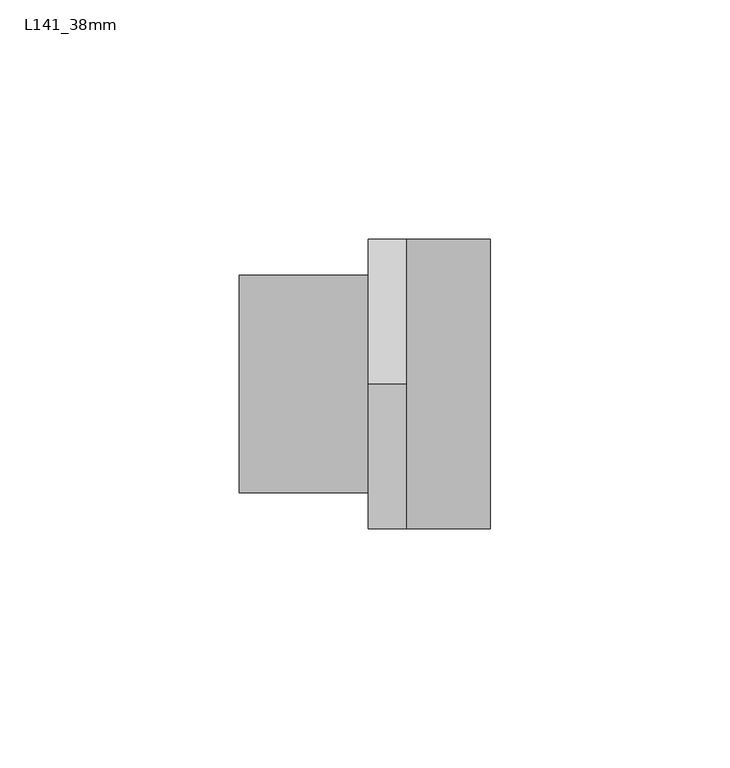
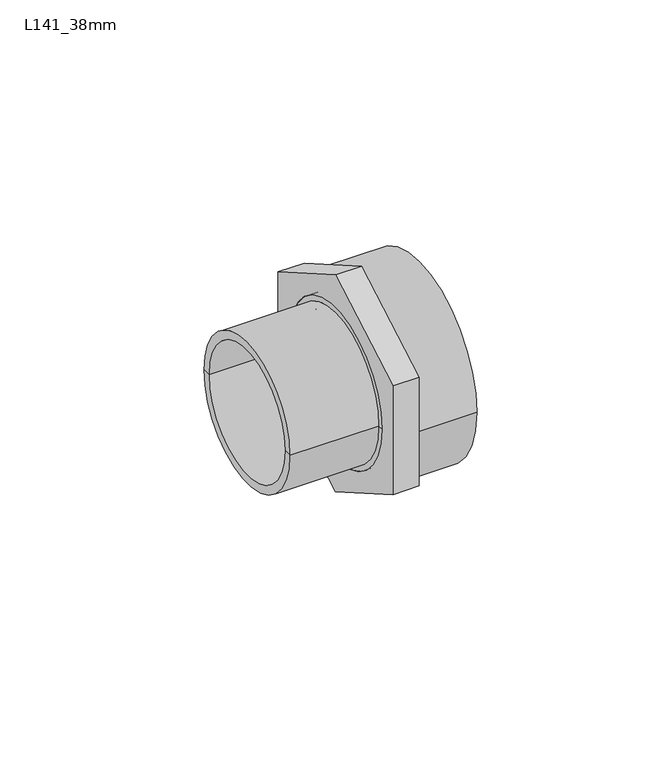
"""IFC4 building model written with IfcOpenShell, lengths in millimetres: pipe fitting geometry, Durapipe_PipeFitting_VulcatheneEnfusion_MItoPipeCoupler_L14 : L141_38mm."""

from ifc_helpers import new_model, si_unit, point, frame, origin, origin_2d, place, context, project, spatial, polyline, circle_curve, trimmed, segment, composite_curve, outline, extrude, source, transform, mapped, element, save
from ifc_brep_helpers import plane_surface, cylinder_surface, revolved_surface, advanced_brep


def l141_38mm_0ffd552d(model_context):
    return source(origin(), model_context, "Body", "SolidModel", [
        extrude(outline(polyline([(-30.2, -17.4342863), (-30.2, 17.4656631), (0.0, 34.8736649), (30.2, 17.4656631), (30.2, -17.4342863), (0.0, -34.8422881), (-30.2, -17.4342863)]), holes=[composite_curve([segment(trimmed(circle_curve(origin_2d(), 24.3), [point((-24.3, 0.0))], [point((24.3, 0.0))], True, "CARTESIAN"), True, "CONTINUOUS"), segment(trimmed(circle_curve(origin_2d(), 24.3), [point((24.3, 0.0))], [point((-24.3, 0.0))], True, "CARTESIAN"), True, "CONTINUOUS")], self_intersect=False)]), frame((0.7, 0.0, 0.0), z_axis=(1.0, 0.0, 0.0), x_axis=(0.0, 1.0, 0.0)), (0.0, 0.0, 1.0), 7.9375),
        advanced_brep(
        [(-26.2, -22.7, 0.0), (-26.2, 22.7, 0.0), (0.7, 22.7, 0.0), (0.7, -22.7, 0.0), (-26.2, -20.1, 0.0), (-26.2, 20.1, 0.0), (1.5, -20.1, 0.0), (1.5, 20.1, 0.0), (0.7, 24.3, 0.0), (0.7, -24.3, 0.0), (1.5, -24.3, 0.0), (1.5, 24.3, 0.0)],
        [
            (0, 1, circle_curve(frame((-26.2, 0.0, 0.0), z_axis=(1.0, 0.0, 0.0), x_axis=(0.0, 1.0, 0.0)), 22.7)),
            (1, 2),
            (2, 3, circle_curve(frame((0.7, 0.0, 0.0), z_axis=(-1.0, 0.0, 0.0), x_axis=(0.0, 1.0, 0.0)), 22.7)),
            (3, 0),
            (1, 0, circle_curve(frame((-26.2, 0.0, 0.0), z_axis=(1.0, 0.0, 0.0), x_axis=(0.0, 1.0, 0.0)), 22.7)),
            (3, 2, circle_curve(frame((0.7, 0.0, 0.0), z_axis=(-1.0, 0.0, 0.0), x_axis=(0.0, 1.0, 0.0)), 22.7)),
            (4, 5, circle_curve(frame((-26.2, 0.0, 0.0), z_axis=(1.0, 0.0, 0.0), x_axis=(0.0, 1.0, 0.0)), 20.1)),
            (5, 1),
            (0, 4),
            (5, 4, circle_curve(frame((-26.2, 0.0, 0.0), z_axis=(1.0, 0.0, 0.0), x_axis=(0.0, 1.0, 0.0)), 20.1)),
            (6, 7, circle_curve(frame((1.5, 0.0, 0.0), z_axis=(1.0, 0.0, 0.0), x_axis=(0.0, 1.0, 0.0)), 20.1)),
            (7, 5),
            (4, 6),
            (7, 6, circle_curve(frame((1.5, 0.0, 0.0), z_axis=(1.0, 0.0, 0.0), x_axis=(0.0, 1.0, 0.0)), 20.1)),
            (2, 8),
            (8, 9, circle_curve(frame((0.7, 0.0, 0.0), z_axis=(-1.0, 0.0, 0.0), x_axis=(0.0, 1.0, 0.0)), 24.3)),
            (9, 3),
            (9, 8, circle_curve(frame((0.7, 0.0, 0.0), z_axis=(-1.0, 0.0, 0.0), x_axis=(0.0, 1.0, 0.0)), 24.3)),
            (10, 11, circle_curve(frame((1.5, 0.0, 0.0), z_axis=(1.0, 0.0, 0.0), x_axis=(0.0, 1.0, 0.0)), 24.3)),
            (11, 7),
            (6, 10),
            (11, 10, circle_curve(frame((1.5, 0.0, 0.0), z_axis=(1.0, 0.0, 0.0), x_axis=(0.0, 1.0, 0.0)), 24.3)),
            (8, 11),
            (10, 9),
        ],
        [
            cylinder_surface(frame((1571.2518184, 0.0, 0.0), z_axis=(-1.0, 0.0, 0.0), x_axis=(0.0, 1.0, 0.0)), 22.7),
            plane_surface(frame((-26.2, 0.0, 0.0), z_axis=(-1.0, 0.0, 0.0), x_axis=(0.0, 1.0, 0.0))),
            revolved_surface(polyline([(-26.200000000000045, 20.1, 0.0), (1.5, 20.1, 0.0)]), (1571.2518184, 0.0, 0.0), (-1.0, 0.0, 0.0)),
            plane_surface(frame((0.7, 0.0, 0.0), z_axis=(-1.0, 0.0, 0.0), x_axis=(0.0, 1.0, 0.0))),
            plane_surface(frame((1.5, 0.0, 0.0), z_axis=(1.0, 0.0, 0.0), x_axis=(0.0, 1.0, 0.0))),
            cylinder_surface(frame((1571.2518184, 0.0, 0.0), z_axis=(-1.0, 0.0, 0.0), x_axis=(0.0, 1.0, 0.0)), 24.3),
        ],
        [
            (0, [[1, 2, 3, 4]]),
            (0, [[5, -4, 6, -2]]),
            (1, [[7, 8, -1, 9]]),
            (1, [[10, -9, -5, -8]]),
            (2, [[11, 12, -7, 13]]),
            (2, [[14, -13, -10, -12]]),
            (3, [[-3, 15, 16, 17]]),
            (3, [[-6, -17, 18, -15]]),
            (4, [[19, 20, -11, 21]]),
            (4, [[22, -21, -14, -20]]),
            (5, [[-16, 23, -19, 24]]),
            (5, [[-18, -24, -22, -23]]),
        ],
    ),
        advanced_brep(
        [(7.1, -24.3, 0.0), (7.1, 24.3, 0.0), (7.1, 30.2, 0.0), (7.1, -30.2, 0.0), (26.2, -24.3, 0.0), (26.2, 24.3, 0.0), (26.2, -30.2, 0.0), (26.2, 30.2, 0.0)],
        [
            (0, 1, circle_curve(frame((7.1, 0.0, 0.0), z_axis=(1.0, 0.0, 0.0), x_axis=(0.0, 1.0, 0.0)), 24.3)),
            (1, 2),
            (2, 3, circle_curve(frame((7.1, 0.0, 0.0), z_axis=(-1.0, 0.0, 0.0), x_axis=(0.0, 1.0, 0.0)), 30.2)),
            (3, 0),
            (1, 0, circle_curve(frame((7.1, 0.0, 0.0), z_axis=(1.0, 0.0, 0.0), x_axis=(0.0, 1.0, 0.0)), 24.3)),
            (3, 2, circle_curve(frame((7.1, 0.0, 0.0), z_axis=(-1.0, 0.0, 0.0), x_axis=(0.0, 1.0, 0.0)), 30.2)),
            (4, 5, circle_curve(frame((26.2, 0.0, 0.0), z_axis=(1.0, 0.0, 0.0), x_axis=(0.0, 1.0, 0.0)), 24.3)),
            (5, 1),
            (0, 4),
            (5, 4, circle_curve(frame((26.2, 0.0, 0.0), z_axis=(1.0, 0.0, 0.0), x_axis=(0.0, 1.0, 0.0)), 24.3)),
            (6, 7, circle_curve(frame((26.2, 0.0, 0.0), z_axis=(1.0, 0.0, 0.0), x_axis=(0.0, 1.0, 0.0)), 30.2)),
            (7, 5),
            (4, 6),
            (7, 6, circle_curve(frame((26.2, 0.0, 0.0), z_axis=(1.0, 0.0, 0.0), x_axis=(0.0, 1.0, 0.0)), 30.2)),
            (2, 7),
            (6, 3),
        ],
        [
            plane_surface(frame((7.1, 0.0, 0.0), z_axis=(-1.0, 0.0, 0.0), x_axis=(0.0, 1.0, 0.0))),
            revolved_surface(polyline([(7.099999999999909, 24.3, 0.0), (26.200000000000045, 24.3, 0.0)]), (1571.2518184, 0.0, 0.0), (-1.0, 0.0, 0.0)),
            plane_surface(frame((26.2, 0.0, 0.0), z_axis=(1.0, 0.0, 0.0), x_axis=(0.0, 1.0, 0.0))),
            cylinder_surface(frame((1571.2518184, 0.0, 0.0), z_axis=(-1.0, 0.0, 0.0), x_axis=(0.0, 1.0, 0.0)), 30.2),
        ],
        [
            (0, [[1, 2, 3, 4]]),
            (0, [[5, -4, 6, -2]]),
            (1, [[7, 8, -1, 9]]),
            (1, [[10, -9, -5, -8]]),
            (2, [[11, 12, -7, 13]]),
            (2, [[14, -13, -10, -12]]),
            (3, [[-3, 15, -11, 16]]),
            (3, [[-6, -16, -14, -15]]),
        ],
    ),
    ])


if __name__ == "__main__":
    model = new_model("IFC4")
    model_context = context("Model", 3, world=origin())
    ifc_project = project(units=[si_unit("LENGTHUNIT", "METRE", prefix="MILLI")], contexts=[model_context])
    site = spatial("IfcSite", under=ifc_project)
    building = spatial("IfcBuilding", under=site)
    placement = place(None, origin())
    l141_38mm_shape = l141_38mm_0ffd552d(model_context)
    element("IfcPipeFitting", 1, ObjectType="Durapipe_PipeFitting_VulcatheneEnfusion_MItoPipeCoupler_L14 : L141_38mm", at=placement, inside=building, context=model_context, shape_type="MappedRepresentation", body=[
        mapped(l141_38mm_shape, transform((0.0, 0.0, 0.0), x_axis=(1.0, 0.0, 0.0), y_axis=(0.0, 1.0, 0.0), z_axis=(0.0, 0.0, 1.0))),
    ])
    save(model, "model.ifc")
